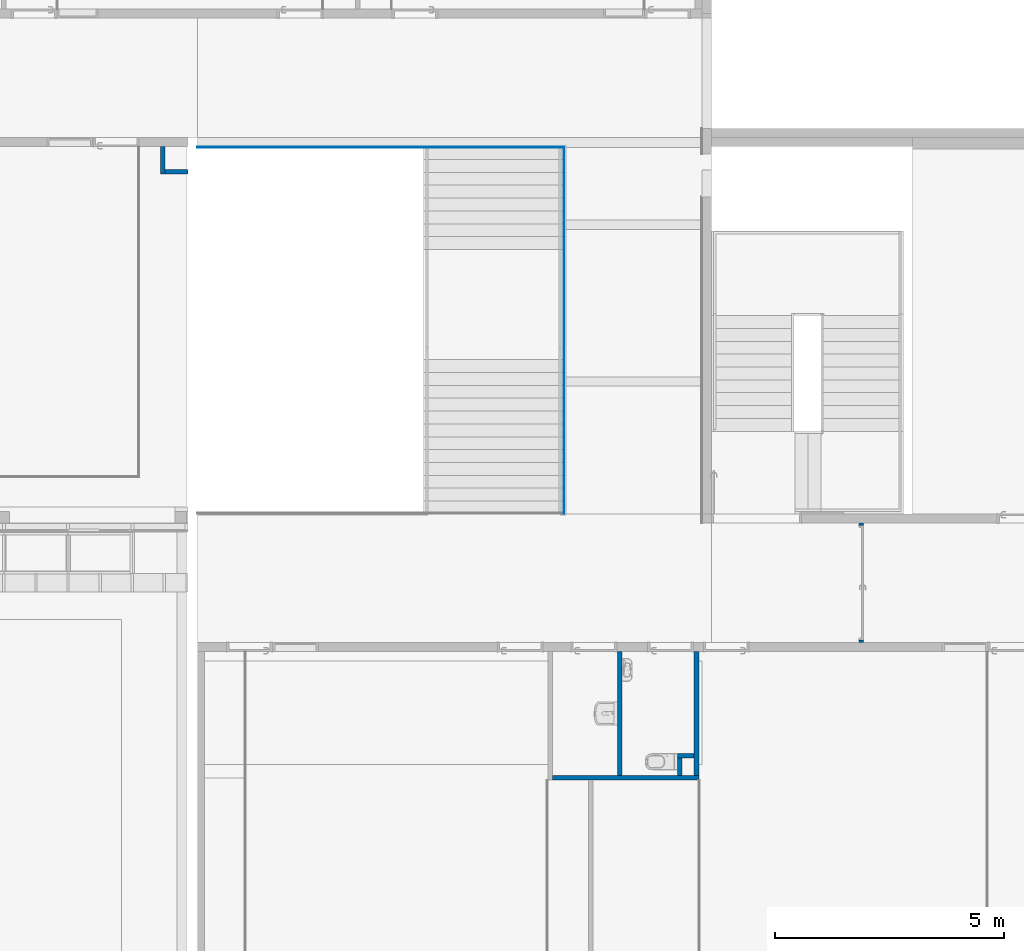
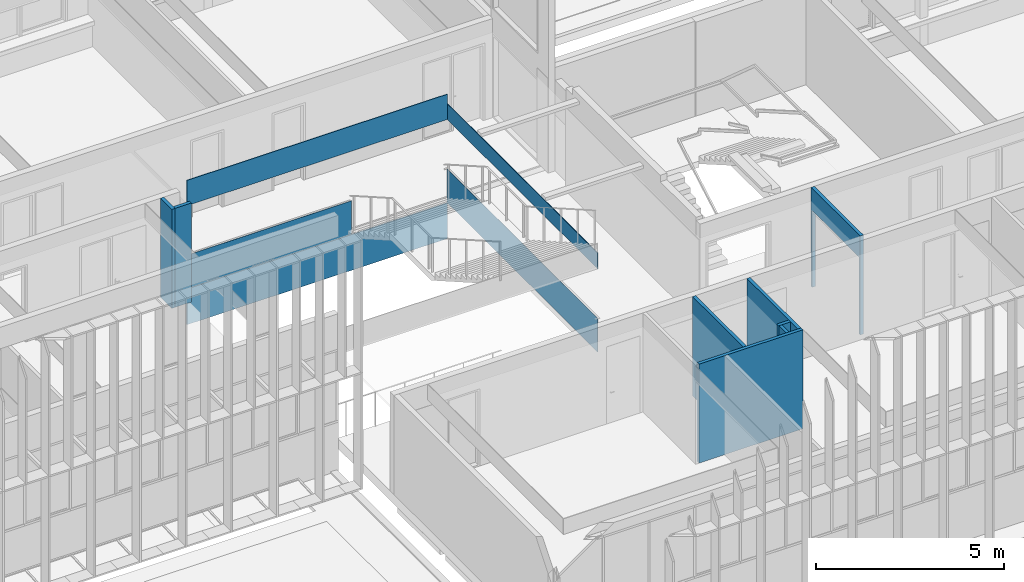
# One storey, part 65 of 106: 13 walls, 1 opening.
"""IFC2X3 building model written with IfcOpenShell, lengths in centimetres."""

from ifc_helpers import new_model, entity, si_unit, converted_unit, derived_unit, direction, frame, frame_2d, origin, place, context, subcontext, project, spatial, polyline, rectangle, extrude, clip, bounded_halfspace, material, layer, layer_set, layer_usage, type_object, element, save


model = new_model("IFC2X3")

# Units and contexts
model_context = context("Model", 3, precision=0.001, world=origin(), true_north=direction((6.12303176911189e-17, 1.0)))
body_context = subcontext(model_context, "Body", "Model", "MODEL_VIEW")
ifc_project = project(units=[si_unit("LENGTHUNIT", "METRE", prefix="CENTI"), si_unit("AREAUNIT", "SQUARE_METRE"), si_unit("VOLUMEUNIT", "CUBIC_METRE"), converted_unit("PLANEANGLEUNIT", "DEGREE", entity("IfcRatioMeasure", 0.0174532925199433), si_unit("PLANEANGLEUNIT", "RADIAN"), dimensions=[0, 0, 0, 0, 0, 0, 0]), si_unit("MASSUNIT", "GRAM", prefix="KILO"), derived_unit("MASSDENSITYUNIT", [(si_unit("MASSUNIT", "GRAM", prefix="KILO"), 1), (si_unit("LENGTHUNIT", "METRE"), -3)]), si_unit("TIMEUNIT", "SECOND"), si_unit("FREQUENCYUNIT", "HERTZ"), si_unit("THERMODYNAMICTEMPERATUREUNIT", "DEGREE_CELSIUS"), derived_unit("THERMALTRANSMITTANCEUNIT", [(si_unit("MASSUNIT", "GRAM", prefix="KILO"), 1), (si_unit("THERMODYNAMICTEMPERATUREUNIT", "KELVIN"), -1), (si_unit("TIMEUNIT", "SECOND"), -3)]), derived_unit("VOLUMETRICFLOWRATEUNIT", [(si_unit("LENGTHUNIT", "METRE"), 3), (si_unit("TIMEUNIT", "SECOND"), -1)]), si_unit("ELECTRICCURRENTUNIT", "AMPERE"), si_unit("ELECTRICVOLTAGEUNIT", "VOLT"), si_unit("POWERUNIT", "WATT"), si_unit("FORCEUNIT", "NEWTON", prefix="KILO"), si_unit("ILLUMINANCEUNIT", "LUX"), si_unit("LUMINOUSFLUXUNIT", "LUMEN"), si_unit("LUMINOUSINTENSITYUNIT", "CANDELA"), derived_unit("USERDEFINED", [(si_unit("MASSUNIT", "GRAM", prefix="KILO"), -1), (si_unit("LENGTHUNIT", "METRE"), -2), (si_unit("TIMEUNIT", "SECOND"), 3), (si_unit("LUMINOUSFLUXUNIT", "LUMEN"), 1)]), derived_unit("LINEARVELOCITYUNIT", [(si_unit("LENGTHUNIT", "METRE"), 1), (si_unit("TIMEUNIT", "SECOND"), -1)]), si_unit("PRESSUREUNIT", "PASCAL"), derived_unit("USERDEFINED", [(si_unit("LENGTHUNIT", "METRE"), -2), (si_unit("MASSUNIT", "GRAM", prefix="KILO"), 1), (si_unit("TIMEUNIT", "SECOND"), -2)])], contexts=[model_context])

# Site, building, storey
site_placement = place(None, frame((-2781.94577612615, 7442.24238424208, 0.0)))
site = spatial("IfcSite", under=ifc_project, at=site_placement, Name="Default", CompositionType="ELEMENT")
building_placement = place(site_placement, origin())
building = spatial("IfcBuilding", under=site, at=building_placement, CompositionType="ELEMENT")
storey_placement = place(building_placement, frame((0.0, 0.0, 422.0)))
storey = spatial("IfcBuildingStorey", under=building, at=storey_placement, Name="Toiture - Cuisine", CompositionType="ELEMENT", Elevation=421.999999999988)

# Walls
ifc_material_1 = material(Name="01 - Enduit/Plâtre")
ifc_layer_1 = layer(ifc_material_1, 1.3)
ifc_material_2 = material(Name="00 - Isolant")
ifc_layer_2 = layer(ifc_material_2, 7.4)
ifc_layer_3 = layer(ifc_material_1, 1.3)
ifc_layer_set_1 = layer_set([ifc_layer_1, ifc_layer_2, ifc_layer_3], Name="Mur de base:06 - cloisons - Ba13 10cm")
ifc_layer_usage_1 = layer_usage(ifc_layer_set_1, "AXIS2", "NEGATIVE", 5.0)
wall_type_1 = type_object("IfcWallType", Name="Mur de base:06 - cloisons - Ba13 10cm", PredefinedType="STANDARD", material=ifc_layer_set_1)
wall_1_placement = place(building_placement, frame((-3994.19987760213, -2485.15656731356, 422.0)))
element("IfcWallStandardCase", 1, at=wall_1_placement, inside=storey, type_object=wall_type_1, material=ifc_layer_usage_1, Name="Mur de base:06 - cloisons - Ba13 10cm", ObjectType="Mur de base:06 - cloisons - Ba13 10cm", context=body_context, shape_type="Clipping", body=[
    clip(extrude(rectangle(XDim=318.899994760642, YDim=10.0000000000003, at=frame_2d((159.449997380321, 5.37347943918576e-14), x_axis=(-1.0, 0.0))), origin(), (0.0, 0.0, 1.0), 321.0), bounded_halfspace(frame((0.0, -5.0, 321.0), z_axis=(0.0, 0.0, -1.0), x_axis=(0.0, 1.0, 0.0)), True, frame((0.0, -5.0, 321.0)), polyline([(0.0, 0.0), (78.8999947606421, 0.0), (88.8999947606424, 0.0), (318.899994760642, 0.0), (318.899994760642, 10.0), (308.899994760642, 10.0), (282.690894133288, 10.0), (272.690894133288, 10.0), (151.899994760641, 10.0), (141.899994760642, 10.0), (0.0, 10.0), (0.0, 0.0)]))),
])
ifc_layer_usage_2 = layer_usage(ifc_layer_set_1, "AXIS2", "NEGATIVE", 5.0)
wall_2_placement = place(building_placement, frame((-3680.29988284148, -2480.15656731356, 422.0), z_axis=(0.0, 0.0, 1.0), x_axis=(0.0, 1.0, 0.0)))
element("IfcWallStandardCase", 2, at=wall_2_placement, inside=storey, type_object=wall_type_1, material=ifc_layer_usage_2, Name="Mur de base:06 - cloisons - Ba13 10cm", ObjectType="Mur de base:06 - cloisons - Ba13 10cm", context=body_context, shape_type="Clipping", body=[
    clip(extrude(rectangle(XDim=270.0, YDim=10.0000000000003, at=frame_2d((135.0, 3.77475828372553e-14), x_axis=(-1.0, 0.0))), origin(), (0.0, 0.0, 1.0), 321.0), bounded_halfspace(frame((0.0, -5.0, 321.0), z_axis=(0.0, 0.0, -1.0), x_axis=(1.0, 0.0, 0.0)), True, frame((0.0, -5.0, 321.0)), polyline([(0.0, 0.0), (270.0, 0.0), (270.0, 10.0), (48.0, 10.0), (38.0, 10.0), (0.0, 10.0), (0.0, 0.0)]))),
])
ifc_layer_usage_3 = layer_usage(ifc_layer_set_1, "AXIS2", "NEGATIVE", 5.0)
wall_3_placement = place(building_placement, frame((-3847.29988284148, -2210.15656731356, 422.0), z_axis=(0.0, 0.0, 1.0), x_axis=(0.0, -1.0, 0.0)))
element("IfcWallStandardCase", 3, at=wall_3_placement, inside=storey, type_object=wall_type_1, material=ifc_layer_usage_3, Name="Mur de base:06 - cloisons - Ba13 10cm", ObjectType="Mur de base:06 - cloisons - Ba13 10cm", context=body_context, shape_type="Clipping", body=[
    clip(extrude(rectangle(XDim=270.0, YDim=10.0000000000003, at=frame_2d((135.0, -1.15463194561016e-14), x_axis=(-1.0, 0.0))), origin(), (0.0, 0.0, 1.0), 321.0), bounded_halfspace(frame((0.0, -5.0, 321.0), z_axis=(0.0, 0.0, -1.0), x_axis=(-1.0, 0.0, 0.0)), True, frame((0.0, -5.0, 321.0)), polyline([(0.0, 0.0), (270.0, 0.0), (270.0, 10.0), (0.0, 10.0), (0.0, 0.0)]))),
])

# Wall, opening
ifc_layer_usage_4 = layer_usage(ifc_layer_set_1, "AXIS2", "NEGATIVE", 5.0)
wall_4_placement = place(building_placement, frame((-3321.49987968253, -1930.07903364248, 422.0), z_axis=(0.0, 0.0, 1.0), x_axis=(0.0, -1.0, 0.0)))
wall_4 = element("IfcWallStandardCase", 4, at=wall_4_placement, inside=storey, type_object=wall_type_1, material=ifc_layer_usage_4, Name="Mur de base:06 - cloisons - Ba13 10cm", ObjectType="Mur de base:06 - cloisons - Ba13 10cm", context=body_context, shape_type="SweptSolid", body=[
    extrude(rectangle(XDim=260.077533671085, YDim=10.0000000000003, at=frame_2d((130.038766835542, 0.0), x_axis=(-1.0, 0.0))), origin(), (0.0, 0.0, 1.0), 321.0),
])
opening_placement = place(wall_4_placement, frame((5.03876683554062, -5.0, 0.0)))
element("IfcOpeningElement", 5, at=opening_placement, cuts=wall_4, Name="Int. Double:PV (2.50m x 2.04m):1", ObjectType="Opening", context=body_context, shape_type="SweptSolid", body=[
    extrude(rectangle(XDim=248.500000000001, YDim=250.0, at=frame_2d((124.250000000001, 125.0), x_axis=(1.0, 0.0))), frame((0.0, 0.0, 0.0), z_axis=(0.0, 1.0, 0.0), x_axis=(0.0, 0.0, 1.0)), (0.0, 0.0, 1.0), 10.0),
])

# Walls
ifc_layer_usage_5 = layer_usage(ifc_layer_set_1, "AXIS2", "NEGATIVE", 5.0)
wall_5_placement = place(building_placement, frame((-4842.99987760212, -1110.0, 422.0), z_axis=(0.0, 0.0, 1.0), x_axis=(0.0, -1.0, 0.0)))
element("IfcWallStandardCase", 6, at=wall_5_placement, inside=storey, type_object=wall_type_1, material=ifc_layer_usage_5, Name="Mur de base:06 - cloisons - Ba13 10cm", ObjectType="Mur de base:06 - cloisons - Ba13 10cm", context=body_context, shape_type="Clipping", body=[
    clip(extrude(rectangle(XDim=60.0000000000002, YDim=9.99999999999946, at=frame_2d((30.0000000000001, 0.0), x_axis=(-1.0, 0.0))), origin(), (0.0, 0.0, 1.0), 321.0), bounded_halfspace(frame((0.0, -5.0, 321.0), z_axis=(0.0, 0.0, -1.0), x_axis=(-1.0, 0.0, 0.0)), True, frame((0.0, -5.0, 321.0)), polyline([(0.0, 0.0), (60.0, 0.0), (60.0, 10.0), (50.0, 10.0), (0.0, 10.0), (0.0, 0.0)]))),
])
ifc_layer_usage_6 = layer_usage(ifc_layer_set_1, "AXIS2", "NEGATIVE", 5.0)
wall_6_placement = place(building_placement, frame((-4837.99987760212, -1165.0, 422.0)))
element("IfcWallStandardCase", 7, at=wall_6_placement, inside=storey, type_object=wall_type_1, material=ifc_layer_usage_6, Name="Mur de base:06 - cloisons - Ba13 10cm", ObjectType="Mur de base:06 - cloisons - Ba13 10cm", context=body_context, shape_type="Clipping", body=[
    clip(extrude(rectangle(XDim=49.9999999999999, YDim=9.99999999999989, at=frame_2d((24.9999999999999, 1.90958360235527e-14), x_axis=(-1.0, 0.0))), origin(), (0.0, 0.0, 1.0), 321.0), bounded_halfspace(frame((0.0, -5.0, 321.0), z_axis=(0.0, 0.0, -1.0), x_axis=(0.0, 1.0, 0.0)), True, frame((0.0, -5.0, 321.0)), polyline([(0.0, 0.0), (46.0, 0.0), (46.0, 10.0), (0.0, 10.0), (0.0, 0.0)]))),
])
ifc_layer_usage_7 = layer_usage(ifc_layer_set_1, "AXIS2", "POSITIVE", -5.0)
wall_7_placement = place(building_placement, frame((-3685.29988284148, -2437.15656731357, 422.0), z_axis=(0.0, 0.0, 1.0), x_axis=(-1.0, 0.0, 0.0)))
element("IfcWallStandardCase", 8, at=wall_7_placement, inside=storey, type_object=wall_type_1, material=ifc_layer_usage_7, Name="Mur de base:06 - cloisons - Ba13 10cm", ObjectType="Mur de base:06 - cloisons - Ba13 10cm", context=body_context, shape_type="Clipping", body=[
    clip(extrude(rectangle(XDim=36.209100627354, YDim=10.0000000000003, at=frame_2d((18.104550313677, 0.0), x_axis=(-1.0, 0.0))), origin(), (0.0, 0.0, 1.0), 321.0), bounded_halfspace(frame((0.0, -5.0, 321.0), z_axis=(0.0, 0.0, -1.0), x_axis=(0.0, -1.0, 0.0)), True, frame((0.0, -5.0, 321.0)), polyline([(0.0, 0.0), (36.209100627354, 0.0), (36.209100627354, 10.0), (26.2091006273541, 10.0), (0.0, 10.0), (0.0, 0.0)]))),
])
ifc_layer_usage_8 = layer_usage(ifc_layer_set_1, "AXIS2", "POSITIVE", -5.0)
wall_8_placement = place(building_placement, frame((-3716.50898346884, -2442.15656731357, 422.0), z_axis=(0.0, 0.0, 1.0), x_axis=(0.0, -1.0, 0.0)))
element("IfcWallStandardCase", 9, at=wall_8_placement, inside=storey, type_object=wall_type_1, material=ifc_layer_usage_8, Name="Mur de base:06 - cloisons - Ba13 10cm", ObjectType="Mur de base:06 - cloisons - Ba13 10cm", context=body_context, shape_type="Clipping", body=[
    clip(extrude(rectangle(XDim=37.9999999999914, YDim=10.0000000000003, at=frame_2d((18.9999999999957, 0.0), x_axis=(-1.0, 0.0))), origin(), (0.0, 0.0, 1.0), 321.0), bounded_halfspace(frame((0.0, -5.0, 321.0), z_axis=(0.0, 0.0, -1.0), x_axis=(-1.0, 0.0, 0.0)), True, frame((0.0, -5.0, 321.0)), polyline([(0.0, 0.0), (38.0, 0.0), (38.0, 10.0), (0.0, 10.0), (0.0, 0.0)]))),
])
ifc_layer_4 = layer(ifc_material_1, 1.3)
ifc_material_3 = material(Name="00 - VIDE D'AIR")
ifc_layer_5 = layer(ifc_material_3, 0.7)
ifc_layer_set_2 = layer_set([ifc_layer_4, ifc_layer_5], Name="Mur de base:06 - habillage Ba13 collée 2cm")
ifc_layer_usage_9 = layer_usage(ifc_layer_set_2, "AXIS2", "NEGATIVE", 1.0)
wall_type_2 = type_object("IfcWallType", Name="Mur de base:06 - habillage Ba13 collée 2cm", PredefinedType="STANDARD", material=ifc_layer_set_2)
wall_9_placement = place(building_placement, frame((-3968.99987968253, -1910.07903364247, 692.0), z_axis=(0.0, 0.0, 1.0), x_axis=(0.0, 1.0, 0.0)))
element("IfcWallStandardCase", 10, at=wall_9_placement, inside=storey, type_object=wall_type_2, material=ifc_layer_usage_9, Name="Mur de base:06 - habillage Ba13 collée 2cm", ObjectType="Mur de base:06 - habillage Ba13 collée 2cm", context=body_context, shape_type="SweptSolid", body=[
    extrude(rectangle(XDim=800.079033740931, YDim=1.99999999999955, at=frame_2d((400.039516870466, -4.51305659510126e-14), x_axis=(-1.0, 0.0))), origin(), (0.0, 0.0, 1.0), 50.9999999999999),
])
ifc_layer_usage_10 = layer_usage(ifc_layer_set_2, "AXIS2", "POSITIVE", -1.0)
wall_10_placement = place(building_placement, frame((-4767.99987760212, -1111.0, 306.0)))
element("IfcWallStandardCase", 11, at=wall_10_placement, inside=storey, type_object=wall_type_2, material=ifc_layer_usage_10, Name="Mur de base:06 - habillage Ba13 collée 2cm", ObjectType="Mur de base:06 - habillage Ba13 collée 2cm", context=body_context, shape_type="SweptSolid", body=[
    extrude(rectangle(XDim=797.999997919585, YDim=1.99999999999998, at=frame_2d((398.999998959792, -4.40203429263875e-14), x_axis=(-1.0, 0.0))), origin(), (0.0, 0.0, 1.0), 116.0),
])
ifc_layer_usage_11 = layer_usage(ifc_layer_set_2, "AXIS2", "POSITIVE", -1.0)
wall_11_placement = place(building_placement, frame((-4767.99987760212, -1111.0, 692.0)))
element("IfcWallStandardCase", 12, at=wall_11_placement, inside=storey, type_object=wall_type_2, material=ifc_layer_usage_11, Name="Mur de base:06 - habillage Ba13 collée 2cm", ObjectType="Mur de base:06 - habillage Ba13 collée 2cm", context=body_context, shape_type="SweptSolid", body=[
    extrude(rectangle(XDim=797.999997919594, YDim=1.99999999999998, at=frame_2d((398.999998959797, -4.40203429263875e-14), x_axis=(-1.0, 0.0))), origin(), (0.0, 0.0, 1.0), 82.0),
])
ifc_material_4 = material(Name="Métal déployé grillage")
ifc_layer_6 = layer(ifc_material_4, 1.0)
ifc_layer_set_3 = layer_set([ifc_layer_6], Name="Mur de base:07 - mur rideau remplissage grillage")
ifc_layer_usage_12 = layer_usage(ifc_layer_set_3, "AXIS2", "NEGATIVE", 0.5)
wall_type_3 = type_object("IfcWallType", Name="Mur de base:07 - mur rideau remplissage grillage", PredefinedType="STANDARD", material=ifc_layer_set_3)
wall_12_placement = place(building_placement, frame((-4767.99987760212, -1111.49999990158, 422.0)))
element("IfcWallStandardCase", 13, at=wall_12_placement, inside=storey, type_object=wall_type_3, material=ifc_layer_usage_12, Name="Mur de base:07 - mur rideau remplissage grillage", ObjectType="Mur de base:07 - mur rideau remplissage grillage", context=body_context, shape_type="SweptSolid", body=[
    extrude(rectangle(XDim=504.0, YDim=1.00000000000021, at=frame_2d((252.0, 0.0), x_axis=(-1.0, 0.0))), origin(), (0.0, 0.0, 1.0), 109.5),
])
ifc_layer_usage_13 = layer_usage(ifc_layer_set_3, "AXIS2", "NEGATIVE", 0.5)
wall_13_placement = place(building_placement, frame((-3969.49987968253, -1910.07903364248, 422.0), z_axis=(0.0, 0.0, 1.0), x_axis=(0.0, 1.0, 0.0)))
element("IfcWallStandardCase", 14, at=wall_13_placement, inside=storey, type_object=wall_type_3, material=ifc_layer_usage_13, Name="Mur de base:07 - mur rideau remplissage grillage", ObjectType="Mur de base:07 - mur rideau remplissage grillage", context=body_context, shape_type="SweptSolid", body=[
    extrude(rectangle(XDim=798.579033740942, YDim=0.999999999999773, at=frame_2d((399.289516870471, -3.08642000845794e-14), x_axis=(-1.0, 0.0))), origin(), (0.0, 0.0, 1.0), 109.5),
])

save(model, "model.ifc")
